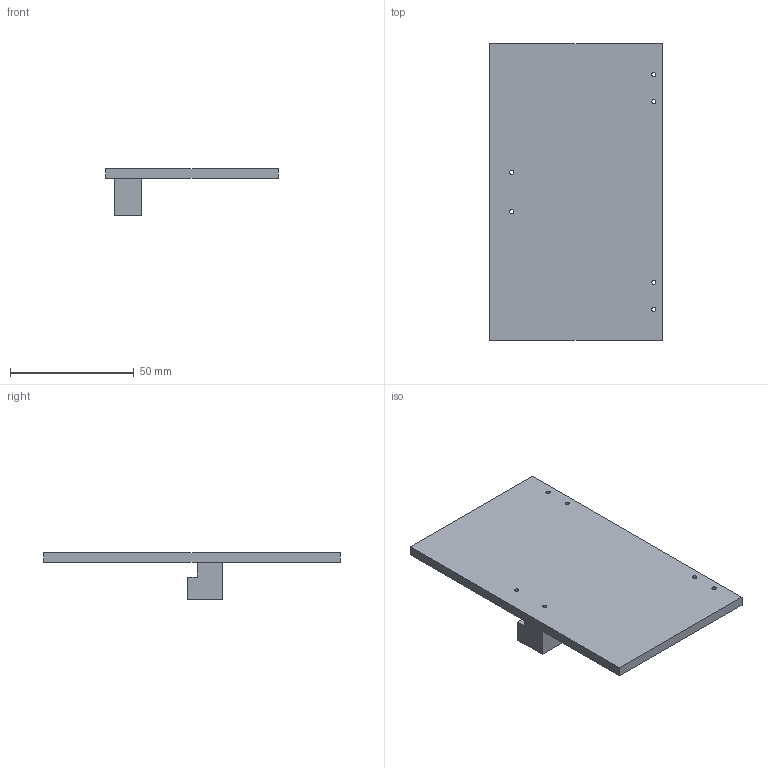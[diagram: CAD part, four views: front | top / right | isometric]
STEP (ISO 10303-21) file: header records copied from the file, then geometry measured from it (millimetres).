
FILE_DESCRIPTION((''),'2;1');
FILE_NAME('0','2026-07-21T10:42:41',('Admin'),(''),'CREO PARAMETRIC BY PTC INC, 2025183','CREO PARAMETRIC BY PTC INC, 2025183','');
FILE_SCHEMA(('CONFIG_CONTROL_DESIGN'));
Length unit declared in the file: millimetre
Products named in the file (1): 0
Bounding box: 70 x 120 x 19 mm (x, y, z)
Volume: 34343.5 mm3; surface area: 19386.9 mm2
Topology: 1 solids, 1 shells, 30 faces, 81 edges, 54 vertices
Faces by surface type: plane 18, cylinder 12
Entity records: 1011 total; most frequent: CARTESIAN_POINT 165, DIRECTION 165, ORIENTED_EDGE 162, EDGE_CURVE 81, VECTOR 57, LINE 57, AXIS2_PLACEMENT_3D 54, VERTEX_POINT 54
